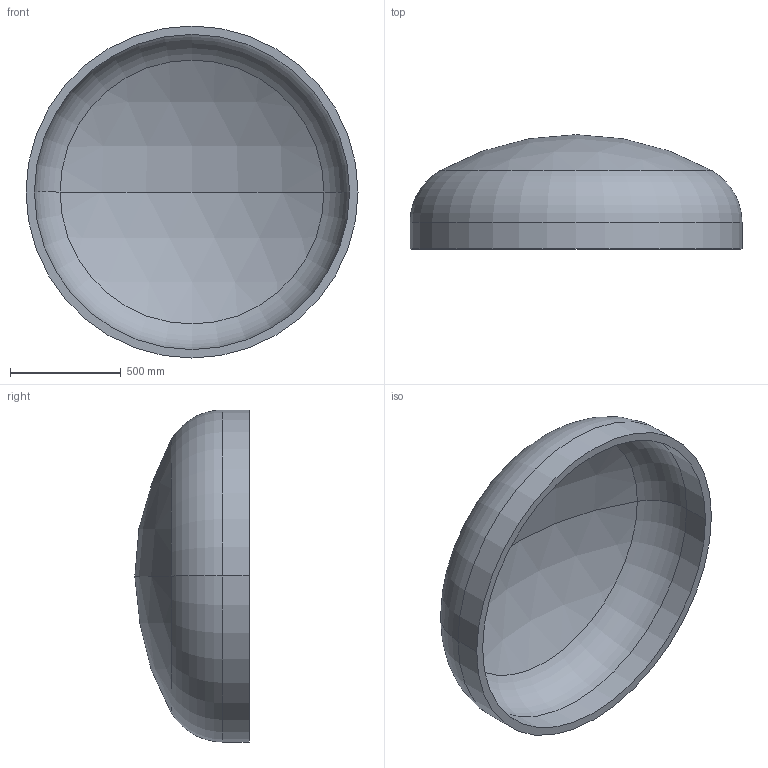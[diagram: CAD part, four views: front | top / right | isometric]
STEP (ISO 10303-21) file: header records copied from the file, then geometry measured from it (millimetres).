
FILE_DESCRIPTION (( 'STEP AP203' ), '1' );
FILE_NAME ('DIN 28013 Korbbogenform_-_Boden DIN 28013 - 1500 x 120 - I - s=38.step', '2016-07-01T10:44:58', ( '' ), ( '' ), 'SwSTEP 2.0', 'SolidWorks 2013', '' );
FILE_SCHEMA (( 'CONFIG_CONTROL_DESIGN' ));
Length unit declared in the file: millimetre
Products named in the file (1): DIN 28013 Korbbogenform_-_Boden DIN 28013 - 1500 x 120 - I - s=38
Bounding box: 1500 x 516.23 x 1500 mm (x, y, z)
Volume: 110831482.2 mm3; surface area: 6010792.8 mm2
Topology: 1 solids, 1 shells, 13 faces, 24 edges, 14 vertices
Faces by surface type: torus 4, cylinder 4, sphere 4, plane 1
Entity records: 407 total; most frequent: DIRECTION 72, CARTESIAN_POINT 52, ORIENTED_EDGE 48, AXIS2_PLACEMENT_3D 34, EDGE_CURVE 24, CIRCLE 20, EDGE_LOOP 14, VERTEX_POINT 14
